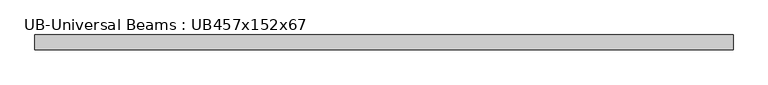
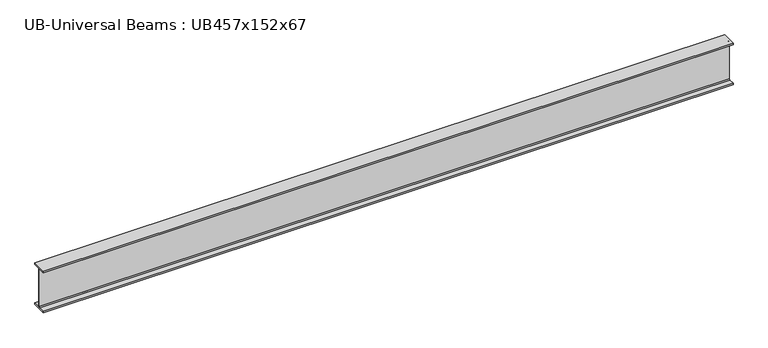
"""IFC4 building model written with IfcOpenShell, lengths in millimetres: beam geometry, UB-Universal Beams : UB457x152x67."""

import ifcopenshell
import ifcopenshell.guid

model = None  # the IFC model being written
_history = None  # IfcOwnerHistory: only IFC2X3 demands one
_inside = {}  # id of a spatial element -> (the spatial element, [elements in it])
_under = {}  # id of a project, library or spatial element -> (it, [spatial elements below it])
_declared = {}  # id of a project -> (the project, [libraries it declares])
_typed = {}  # id of a type object -> (the type object, [elements of that type])
_made_of = {}  # id of a material, layer set ... -> (it, [elements and type objects made of it])


def new_model(schema):
    """Start an empty IFC model of exactly this schema.

    Asked for "IFC4X3", IfcOpenShell would pick the latest addendum, in which some entities
    have other attributes; the version numbers below select the first issue.
    IFC2X3 requires an IfcOwnerHistory on every rooted entity: one is made here for all.
    """
    global model, _history
    if schema == "IFC4X3":
        model = ifcopenshell.file(schema_version=(4, 3, 0, 0))
    else:
        model = ifcopenshell.file(schema=schema)
    _inside.clear()
    _under.clear()
    _declared.clear()
    _typed.clear()
    _made_of.clear()
    _history = None
    if model.schema == "IFC2X3":
        org = make("IfcOrganization", Name="unknown")
        user = make(
            "IfcPersonAndOrganization",
            ThePerson=make("IfcPerson", FamilyName="unknown"),
            TheOrganization=org,
        )
        app = make(
            "IfcApplication",
            ApplicationDeveloper=org,
            Version="unknown",
            ApplicationFullName="unknown",
            ApplicationIdentifier="unknown",
        )
        _history = make(
            "IfcOwnerHistory",
            OwningUser=user,
            OwningApplication=app,
            ChangeAction="ADDED",
            CreationDate=0,
        )
    return model


def make(cls, **values):
    """One entity of the class cls with the attributes given. An attribute that is None is left unset."""
    return model.create_entity(
        cls, **{name: value for name, value in values.items() if value is not None}
    )


def rooted(cls, **values):
    """An entity with a GlobalId (a new one), such as an element, a storey or a relation."""
    return make(cls, GlobalId=ifcopenshell.guid.new(), OwnerHistory=_history, **values)


def si_unit(unit_type, name, prefix=None):
    """IfcSIUnit, for example si_unit("LENGTHUNIT", "METRE", prefix="MILLI")."""
    return make("IfcSIUnit", UnitType=unit_type, Prefix=prefix, Name=name)


def assignment(units):
    """IfcUnitAssignment: the units of a project."""
    return None if units is None else make("IfcUnitAssignment", Units=units)


def point(xyz):
    """IfcCartesianPoint."""
    return None if xyz is None else make("IfcCartesianPoint", Coordinates=xyz)


def direction(xyz):
    """IfcDirection."""
    return None if xyz is None else make("IfcDirection", DirectionRatios=xyz)


def frame(location, z_axis=None, x_axis=None):
    """IfcAxis2Placement3D, a coordinate frame: its origin and axes. An axis left out is left unset."""
    return make(
        "IfcAxis2Placement3D",
        Location=point(location),
        Axis=direction(z_axis),
        RefDirection=direction(x_axis),
    )


def frame_2d(location, x_axis=None):
    """IfcAxis2Placement2D, a coordinate frame in the plane: its origin and x axis."""
    return make(
        "IfcAxis2Placement2D", Location=point(location), RefDirection=direction(x_axis)
    )


def origin():
    """The frame at (0, 0, 0) with its axes left unset."""
    return frame((0.0, 0.0, 0.0))


def place(relative_to, where):
    """IfcLocalPlacement: puts the frame where relative to a parent placement (None: the world)."""
    return make(
        "IfcLocalPlacement", PlacementRelTo=relative_to, RelativePlacement=where
    )


def context(
    kind, dimensions, precision=None, world=None, true_north=None, identifier=None
):
    """IfcGeometricRepresentationContext, for example the 3D "Model" context."""
    return make(
        "IfcGeometricRepresentationContext",
        ContextIdentifier=identifier,
        ContextType=kind,
        CoordinateSpaceDimension=dimensions,
        Precision=precision,
        WorldCoordinateSystem=world,
        TrueNorth=true_north,
    )


def project(units=None, contexts=None):
    """IfcProject with its units and contexts."""
    return rooted(
        "IfcProject",
        Name="project",
        RepresentationContexts=contexts,
        UnitsInContext=assignment(units),
    )


def spatial(cls, under=None, at=None, **own):
    """A site, building, storey or space (cls), placed at a placement, below another one or the project."""
    s = rooted(cls, ObjectPlacement=at, **own)
    if under is not None:
        _under.setdefault(under.id(), (under, []))[1].append(s)
    return s


def polyline(points):
    """IfcPolyline through the points."""
    return make("IfcPolyline", Points=[point(p) for p in points])


def circle_curve(where, radius):
    """IfcCircle in the frame where."""
    return make("IfcCircle", Position=where, Radius=radius)


def trimmed(basis, trim1, trim2, sense, master):
    """IfcTrimmedCurve: the piece of a basis curve between two trims."""
    return make(
        "IfcTrimmedCurve",
        BasisCurve=basis,
        Trim1=trim1,
        Trim2=trim2,
        SenseAgreement=sense,
        MasterRepresentation=master,
    )


def segment(curve, same_sense, transition):
    """IfcCompositeCurveSegment."""
    return make(
        "IfcCompositeCurveSegment",
        Transition=transition,
        SameSense=same_sense,
        ParentCurve=curve,
    )


def composite_curve(segments, self_intersect=None):
    """IfcCompositeCurve: segments joined end to end."""
    return make("IfcCompositeCurve", Segments=segments, SelfIntersect=self_intersect)


def outline(outer, holes=None, kind="AREA"):
    """IfcArbitraryClosedProfileDef: a profile drawn as a closed curve; with holes, ...WithVoids."""
    if holes is None:
        return make("IfcArbitraryClosedProfileDef", ProfileType=kind, OuterCurve=outer)
    return make(
        "IfcArbitraryProfileDefWithVoids",
        ProfileType=kind,
        OuterCurve=outer,
        InnerCurves=holes,
    )


def extrude(swept, where, along, depth):
    """IfcExtrudedAreaSolid: the profile swept, set in the frame where, extruded along a direction by depth."""
    return make(
        "IfcExtrudedAreaSolid",
        SweptArea=swept,
        Position=where,
        ExtrudedDirection=direction(along),
        Depth=depth,
    )


def shape(context_of_items, identifier, shape_type, items):
    """IfcShapeRepresentation: the items that make up one representation, for example the "Body"."""
    return make(
        "IfcShapeRepresentation",
        ContextOfItems=context_of_items,
        RepresentationIdentifier=identifier,
        RepresentationType=shape_type,
        Items=items,
    )


def source(mapping_origin, context_of_items, identifier, shape_type, items):
    """IfcRepresentationMap: a shape defined once, which mapped items show again and again."""
    return make(
        "IfcRepresentationMap",
        MappingOrigin=mapping_origin,
        MappedRepresentation=shape(context_of_items, identifier, shape_type, items),
    )


def transform(
    local_origin,
    x_axis=None,
    y_axis=None,
    z_axis=None,
    scale=None,
    scale2=None,
    scale3=None,
    uniform=True,
):
    """IfcCartesianTransformationOperator3D, or its non-uniform kind. x_axis, y_axis, z_axis: its Axis1, 2, 3."""
    if uniform:
        return make(
            "IfcCartesianTransformationOperator3D",
            Axis1=direction(x_axis),
            Axis2=direction(y_axis),
            LocalOrigin=point(local_origin),
            Scale=scale,
            Axis3=direction(z_axis),
        )
    return make(
        "IfcCartesianTransformationOperator3DnonUniform",
        Axis1=direction(x_axis),
        Axis2=direction(y_axis),
        LocalOrigin=point(local_origin),
        Scale=scale,
        Axis3=direction(z_axis),
        Scale2=scale2,
        Scale3=scale3,
    )


def mapped(mapping_source, mapping_target):
    """IfcMappedItem: shows the shape of a source again, moved by a transform."""
    return make(
        "IfcMappedItem", MappingSource=mapping_source, MappingTarget=mapping_target
    )


def made_of(thing, what):
    """Note that an element or type object is made of a material, layer set ...; save() writes the relation."""
    if what is not None:
        _made_of.setdefault(what.id(), (what, []))[1].append(thing)
    return thing


def element(
    cls,
    number,
    at=None,
    inside=None,
    cuts=None,
    type_object=None,
    material=None,
    context=None,
    identifier="Body",
    shape_type=None,
    held_by="IfcProductDefinitionShape",
    body=None,
    shapes=None,
    **own,
):
    """One element of the class cls, such as IfcWall. Its Tag is "e" and its number.

    at: its placement. inside: the storey or other place that contains it. cuts: it is an
    opening in that element (IfcRelVoidsElement). A single representation is given by context,
    identifier, shape_type and body (its items); several are given by shapes. held_by: the class
    of the entity that holds the representations. save() writes the other relations.
    """
    e = rooted(cls, Tag="e%d" % number, ObjectPlacement=at, **own)
    if body is not None:
        shapes = [shape(context, identifier, shape_type, body)]
    if shapes is not None:
        e.Representation = make(held_by, Representations=shapes)
    if inside is not None:
        _inside.setdefault(inside.id(), (inside, []))[1].append(e)
    if cuts is not None:
        rooted(
            "IfcRelVoidsElement", RelatingBuildingElement=cuts, RelatedOpeningElement=e
        )
    if type_object is not None:
        _typed.setdefault(type_object.id(), (type_object, []))[1].append(e)
    return made_of(e, material)


def aggregate(whole, parts):
    """IfcRelAggregates: a whole, such as a stair, and the parts it consists of."""
    return rooted("IfcRelAggregates", RelatingObject=whole, RelatedObjects=parts)


def save(model, path):
    """Write the relations noted so far, then the file.

    IfcRelAggregates (storeys below a building ...), IfcRelContainedInSpatialStructure (elements
    in a storey), IfcRelDefinesByType, IfcRelAssociatesMaterial and IfcRelDeclares: one each for
    every whole, place, type object, material and project.
    """
    for whole, parts in _under.values():
        aggregate(whole, parts)
    for where, things in _inside.values():
        rooted(
            "IfcRelContainedInSpatialStructure",
            RelatedElements=things,
            RelatingStructure=where,
        )
    for kind, things in _typed.values():
        rooted("IfcRelDefinesByType", RelatedObjects=things, RelatingType=kind)
    for what, things in _made_of.values():
        rooted("IfcRelAssociatesMaterial", RelatedObjects=things, RelatingMaterial=what)
    for by, libraries in _declared.values():
        rooted("IfcRelDeclares", RelatingContext=by, RelatedDefinitions=libraries)
    model.write(path)


def ub_universal_beams_ub457x152x67_04894bd8(model_context):
    return source(origin(), model_context, "Body", "SweptSolid", [
        extrude(outline(composite_curve([segment(polyline([(76.9, -214.0), (76.9, -229.0), (-76.9, -229.0), (-76.9, -214.0), (-14.7, -214.0)]), True, "CONTINUOUS"), segment(trimmed(circle_curve(frame_2d((-14.7, -203.8)), 10.2), [point((-14.7, -214.0))], [point((-4.5, -203.8))], True, "CARTESIAN"), True, "CONTINUOUS"), segment(polyline([(-4.5, -203.8), (-4.5, 203.8)]), True, "CONTINUOUS"), segment(trimmed(circle_curve(frame_2d((-14.7, 203.8)), 10.2), [point((-4.5, 203.8))], [point((-14.7, 214.0))], True, "CARTESIAN"), True, "CONTINUOUS"), segment(polyline([(-14.7, 214.0), (-76.9, 214.0), (-76.9, 229.0), (76.9, 229.0), (76.9, 214.0), (14.7, 214.0)]), True, "CONTINUOUS"), segment(trimmed(circle_curve(frame_2d((14.7, 203.8)), 10.2), [point((14.7, 214.0))], [point((4.5, 203.8))], True, "CARTESIAN"), True, "CONTINUOUS"), segment(polyline([(4.5, 203.8), (4.5, -203.8)]), True, "CONTINUOUS"), segment(trimmed(circle_curve(frame_2d((14.7, -203.8)), 10.2), [point((4.5, -203.8))], [point((14.7, -214.0))], True, "CARTESIAN"), True, "CONTINUOUS"), segment(polyline([(14.7, -214.0), (76.9, -214.0)]), True, "CONTINUOUS")], self_intersect=False)), frame((-3737.2, 0.0, 0.0), z_axis=(1.0, 0.0, 0.0), x_axis=(0.0, 1.0, 0.0)), (0.0, 0.0, 1.0), 7200.1),
    ])


if __name__ == "__main__":
    model = new_model("IFC4")
    model_context = context("Model", 3, world=origin())
    ifc_project = project(units=[si_unit("LENGTHUNIT", "METRE", prefix="MILLI")], contexts=[model_context])
    site = spatial("IfcSite", under=ifc_project)
    building = spatial("IfcBuilding", under=site)
    placement = place(None, origin())
    ub_universal_beams_ub457x152x67_shape = ub_universal_beams_ub457x152x67_04894bd8(model_context)
    element("IfcBeam", 1, ObjectType="UB-Universal Beams : UB457x152x67", at=placement, inside=building, context=model_context, shape_type="MappedRepresentation", body=[
        mapped(ub_universal_beams_ub457x152x67_shape, transform((0.0, 0.0, 0.0), x_axis=(1.0, 0.0, 0.0), y_axis=(0.0, 1.0, 0.0), z_axis=(0.0, 0.0, 1.0))),
    ])
    save(model, "model.ifc")
